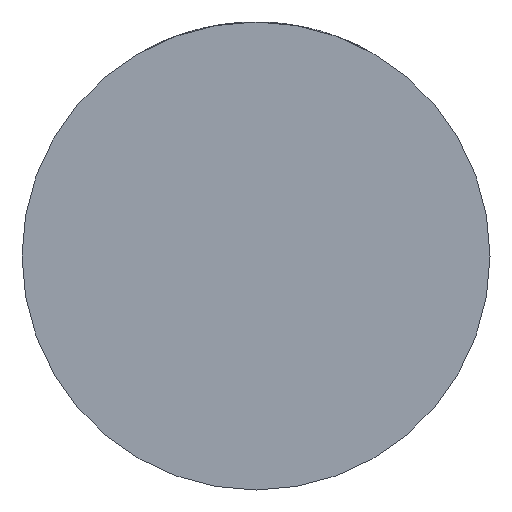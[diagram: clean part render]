
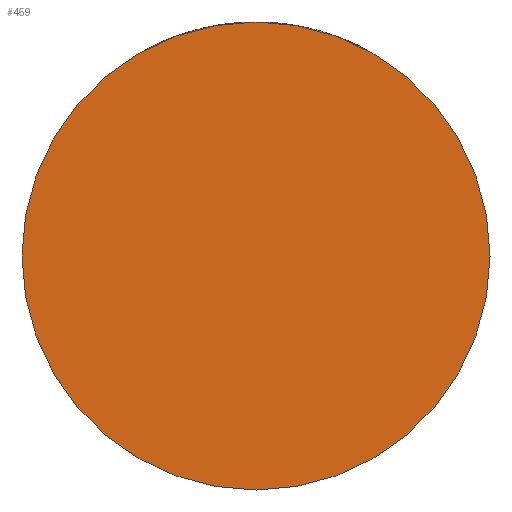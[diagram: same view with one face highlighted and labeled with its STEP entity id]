
A CAD part, front view. The second image highlights one B-rep face of the part: STEP entity #459.
In plain terms, the highlighted planar face has unit normal (0, -1, 0).
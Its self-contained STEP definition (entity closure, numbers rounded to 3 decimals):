
#252 = FACE_OUTER_BOUND ( 'NONE', #2106, .T. ) ;
#276 = CARTESIAN_POINT ( 'NONE',  ( 0., -36., 0. ) ) ;
#459 = ADVANCED_FACE ( 'NONE', ( #252 ), #3366, .T. ) ;
#570 = DIRECTION ( 'NONE',  ( 1., 0., 0. ) ) ;
#622 = VERTEX_POINT ( 'NONE', #2163 ) ;
#651 = DIRECTION ( 'NONE',  ( 1., 0., 0. ) ) ;
#750 = ORIENTED_EDGE ( 'NONE', *, *, #4250, .T. ) ;
#882 = DIRECTION ( 'NONE',  ( 1., 0., 0. ) ) ;
#978 = AXIS2_PLACEMENT_3D ( 'NONE', #276, #1690, #651 ) ;
#1690 = DIRECTION ( 'NONE',  ( 0., -1., 0. ) ) ;
#1829 = CIRCLE ( 'NONE', #4427, 45. ) ;
#1911 = CIRCLE ( 'NONE', #4070, 45. ) ;
#1965 = VERTEX_POINT ( 'NONE', #3176 ) ;
#2086 = ORIENTED_EDGE ( 'NONE', *, *, #4223, .T. ) ;
#2106 = EDGE_LOOP ( 'NONE', ( #2086, #750 ) ) ;
#2163 = CARTESIAN_POINT ( 'NONE',  ( 45., -36., 0. ) ) ;
#3032 = DIRECTION ( 'NONE',  ( 0., -1., 0. ) ) ;
#3176 = CARTESIAN_POINT ( 'NONE',  ( -45., -36., 0. ) ) ;
#3366 = PLANE ( 'NONE',  #978 ) ;
#3637 = CARTESIAN_POINT ( 'NONE',  ( 0., -36., 0. ) ) ;
#3660 = CARTESIAN_POINT ( 'NONE',  ( 0., -36., 0. ) ) ;
#4029 = DIRECTION ( 'NONE',  ( 0., -1., 0. ) ) ;
#4070 = AXIS2_PLACEMENT_3D ( 'NONE', #3637, #4029, #882 ) ;
#4223 = EDGE_CURVE ( 'NONE', #1965, #622, #1911, .T. ) ;
#4250 = EDGE_CURVE ( 'NONE', #622, #1965, #1829, .T. ) ;
#4427 = AXIS2_PLACEMENT_3D ( 'NONE', #3660, #3032, #570 ) ;
